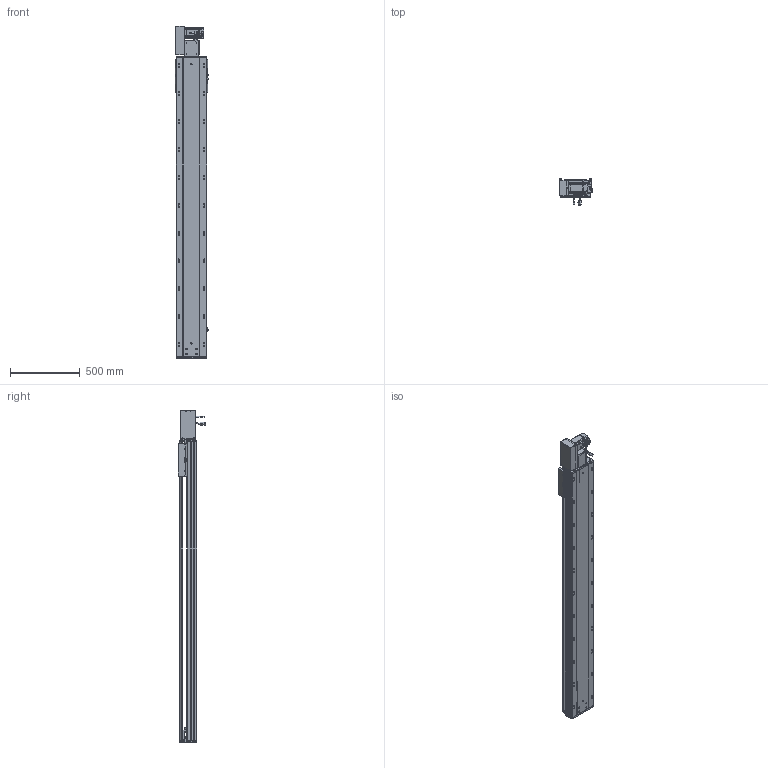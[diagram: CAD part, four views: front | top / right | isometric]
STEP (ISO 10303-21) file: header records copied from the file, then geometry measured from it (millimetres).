
FILE_DESCRIPTION (( 'STEP AP203' ), '1' );
FILE_NAME ('RY220-T-300-LK.SLDASM_1800.step', '2022-07-25T08:14:57', ( '' ), ( '' ), 'SwSTEP 2.0', 'SolidWorks 2016', '' );
FILE_SCHEMA (( 'CONFIG_CONTROL_DESIGN' ));
Length unit declared in the file: millimetre
Products named in the file (14): 怢湛750W_ECMA-CX0807ES; RY220-T菁釱-300_1800; 覜茼ん672; RY220圉猾敕々湍臏賑輸; RY220-T-300-奻裔啣_1800; RY220-T-300-LK.SLDASM_1800; RY220翋肮祭謫裔啣; RY220-同步轮副支撑座6304×2; 滅袉蝶18-15; RY220翋肮祭謫釱; RY220-T-蛌殏萇儂假蚾啣(750W); RY220-俋离672覜茼んえ; 110A-T-肮祭謫釱傷裔; RY220-T-湍謫欶(鍼踢)
Assembly tree (18 placements, depth 2):
  RY220-T-300-LK.SLDASM_1800
    RY220-T菁釱-300_1800
    RY220翋肮祭謫釱
    覜茼ん672  x3
    RY220圉猾敕々湍臏賑輸
    RY220-T-300-奻裔啣_1800
    RY220-俋离672覜茼んえ
    滅袉蝶18-15  x3
    RY220翋肮祭謫裔啣  x2
    110A-T-肮祭謫釱傷裔
    怢湛750W_ECMA-CX0807ES
    RY220-T-湍謫欶(鍼踢)
    RY220-T-蛌殏萇儂假蚾啣(750W)
    RY220-同步轮副支撑座6304×2
Bounding box: 239.7 x 198.77 x 2379 mm (x, y, z)
Volume: 17439472.4 mm3; surface area: 5267430.4 mm2
Topology: 19 solids, 19 shells, 2784 faces, 7687 edges, 4848 vertices
Faces by surface type: cylinder 1332, plane 1069, cone 301, bspline 56, sphere 16, torus 10
Entity records: 92643 total; most frequent: CARTESIAN_POINT 26279, ORIENTED_EDGE 13754, DIRECTION 13124, EDGE_CURVE 6877, AXIS2_PLACEMENT_3D 4682, VERTEX_POINT 4472, LINE 3760, VECTOR 3760
